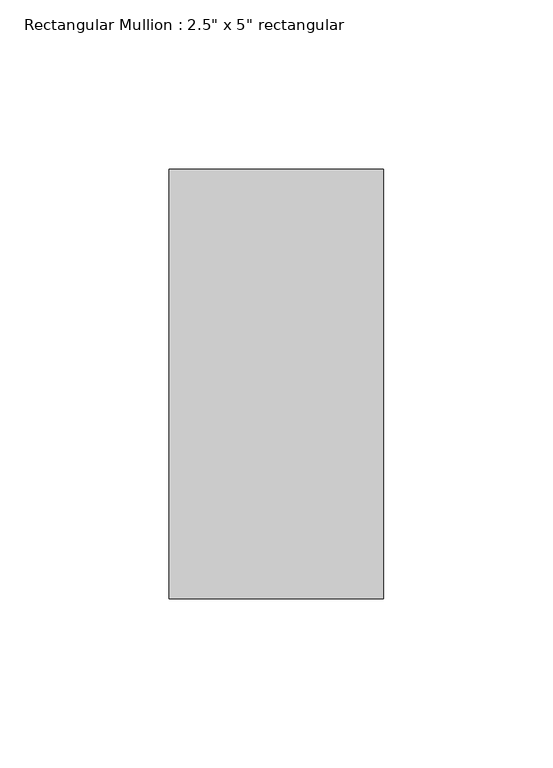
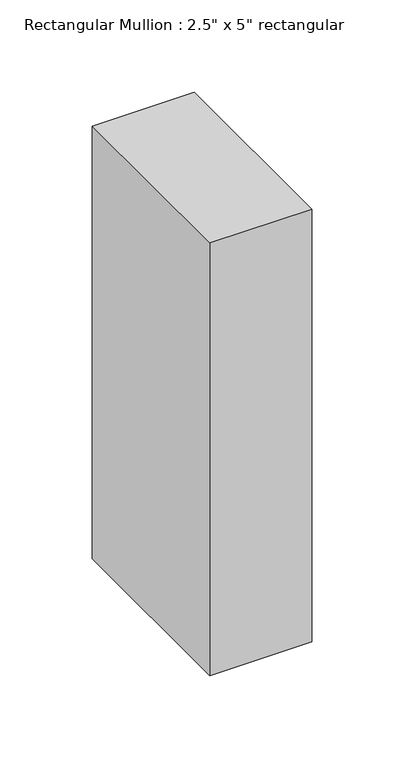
"""IFC4 building model written with IfcOpenShell, lengths in millimetres: member geometry."""

from ifc_helpers import new_model, si_unit, frame, origin, place, context, project, spatial, polyline, outline, extrude, source, transform, mapped, element, save


def member_6c34f49c(model_context):
    return source(origin(), model_context, "Body", "SweptSolid", [
        extrude(outline(polyline([(0.0, 63.5), (0.0, -63.5), (-63.5, -63.5), (-63.5, 63.5), (0.0, 63.5)])), frame((0.0, 0.0, -285.75), z_axis=(0.0, 0.0, 1.0), x_axis=(1.0, 0.0, 0.0)), (0.0, 0.0, 1.0), 285.75),
    ])


if __name__ == "__main__":
    model = new_model("IFC4")
    model_context = context("Model", 3, world=origin())
    ifc_project = project(units=[si_unit("LENGTHUNIT", "METRE", prefix="MILLI")], contexts=[model_context])
    site = spatial("IfcSite", under=ifc_project)
    building = spatial("IfcBuilding", under=site)
    placement = place(None, origin())
    member_shape = member_6c34f49c(model_context)
    element("IfcMember", 1, ObjectType="Rectangular Mullion : 2.5\" x 5\" rectangular", at=placement, inside=building, context=model_context, shape_type="MappedRepresentation", body=[
        mapped(member_shape, transform((0.0, 0.0, 0.0), x_axis=(1.0, 0.0, 0.0), y_axis=(0.0, 1.0, 0.0), z_axis=(0.0, 0.0, 1.0))),
    ])
    save(model, "model.ifc")
